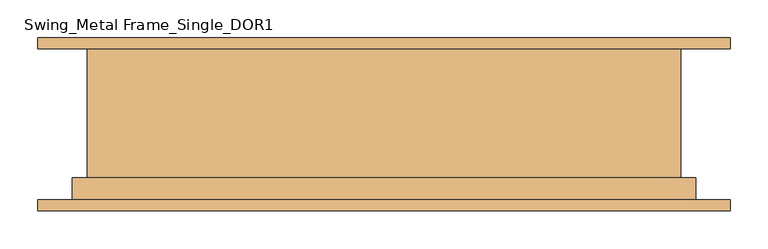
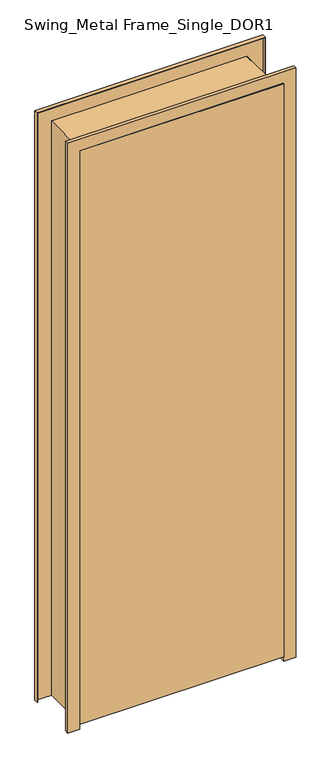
"""IFC4 building model written with IfcOpenShell, lengths in millimetres: door geometry, Swing_Metal Frame_Single_DOR1 : 2040h x 820 (2110x920 STUD)."""

from ifc_helpers import new_model, si_unit, frame, origin, place, context, project, spatial, polyline, outline, extrude, faceted_brep, source, transform, mapped, element, save


def swing_metal_frame_single_dor1_4c0ddaa6(model_context):
    return source(origin(), model_context, "Body", "SolidModel", [
        extrude(outline(polyline([(410.0, -115.0), (-410.0, -115.0), (-410.0, -75.0), (410.0, -75.0), (410.0, -115.0)])), frame((0.0, 0.0, 20.0), z_axis=(0.0, 0.0, 1.0), x_axis=(1.0, 0.0, 0.0)), (0.0, 0.0, 1.0), 2440.0),
        faceted_brep([(-460.0, 115.0, 0.0), (-392.0, 115.0, 0.0), (-392.0, -73.0, 0.0), (-412.0, -73.0, 0.0), (-412.0, -115.0, 0.0), (-460.0, -115.0, 0.0), (-460.0, -100.0, 0.0), (-458.0, -100.0, 0.0), (-458.0, -113.0, 0.0), (-414.0, -113.0, 0.0), (-414.0, -71.0, 0.0), (-394.0, -71.0, 0.0), (-394.0, 113.0, 0.0), (-458.0, 113.0, 0.0), (-458.0, 100.0, 0.0), (-460.0, 100.0, 0.0), (-460.0, 100.0, 2510.0), (-460.0, 115.0, 2510.0), (-458.0, 100.0, 2508.0), (458.0, 100.0, 2508.0), (458.0, 100.0, 0.0), (460.0, 100.0, 0.0), (460.0, 100.0, 2510.0), (-458.0, 113.0, 2508.0), (-394.0, 113.0, 2444.0), (394.0, 113.0, 2444.0), (394.0, 113.0, 0.0), (458.0, 113.0, 0.0), (458.0, 113.0, 2508.0), (-394.0, -71.0, 2444.0), (-414.0, -71.0, 2464.0), (414.0, -71.0, 2464.0), (414.0, -71.0, 0.0), (394.0, -71.0, 0.0), (394.0, -71.0, 2444.0), (-414.0, -113.0, 2464.0), (-458.0, -113.0, 2508.0), (458.0, -113.0, 2508.0), (458.0, -113.0, 0.0), (414.0, -113.0, 0.0), (414.0, -113.0, 2464.0), (-458.0, -100.0, 2508.0), (-460.0, -100.0, 2510.0), (460.0, -100.0, 2510.0), (460.0, -100.0, 0.0), (458.0, -100.0, 0.0), (458.0, -100.0, 2508.0), (-460.0, -115.0, 2510.0), (-412.0, -115.0, 2462.0), (412.0, -115.0, 2462.0), (412.0, -115.0, 0.0), (460.0, -115.0, 0.0), (460.0, -115.0, 2510.0), (-412.0, -73.0, 2462.0), (-392.0, -73.0, 2442.0), (392.0, -73.0, 2442.0), (392.0, -73.0, 0.0), (412.0, -73.0, 0.0), (412.0, -73.0, 2462.0), (-392.0, 115.0, 2442.0), (460.0, 115.0, 2510.0), (460.0, 115.0, 0.0), (392.0, 115.0, 0.0), (392.0, 115.0, 2442.0)], [[[0, 1, 2, 3, 4, 5, 6, 7, 8, 9, 10, 11, 12, 13, 14, 15]], [[15, 16, 17, 0]], [[14, 18, 19, 20, 21, 22, 16, 15]], [[13, 23, 18, 14]], [[12, 24, 25, 26, 27, 28, 23, 13]], [[11, 29, 24, 12]], [[10, 30, 31, 32, 33, 34, 29, 11]], [[9, 35, 30, 10]], [[8, 36, 37, 38, 39, 40, 35, 9]], [[7, 41, 36, 8]], [[6, 42, 43, 44, 45, 46, 41, 7]], [[5, 47, 42, 6]], [[4, 48, 49, 50, 51, 52, 47, 5]], [[3, 53, 48, 4]], [[2, 54, 55, 56, 57, 58, 53, 3]], [[1, 59, 54, 2]], [[0, 17, 60, 61, 62, 63, 59, 1]], [[22, 21, 61, 60]], [[61, 21, 20, 27, 26, 33, 32, 39, 38, 45, 44, 51, 50, 57, 56, 62]], [[28, 27, 20, 19]], [[34, 33, 26, 25]], [[40, 39, 32, 31]], [[46, 45, 38, 37]], [[52, 51, 44, 43]], [[58, 57, 50, 49]], [[63, 62, 56, 55]], [[16, 22, 60, 17]], [[23, 28, 19, 18]], [[29, 34, 25, 24]], [[35, 40, 31, 30]], [[41, 46, 37, 36]], [[47, 52, 43, 42]], [[53, 58, 49, 48]], [[59, 63, 55, 54]]]),
    ])


if __name__ == "__main__":
    model = new_model("IFC4")
    model_context = context("Model", 3, world=origin())
    ifc_project = project(units=[si_unit("LENGTHUNIT", "METRE", prefix="MILLI")], contexts=[model_context])
    site = spatial("IfcSite", under=ifc_project)
    building = spatial("IfcBuilding", under=site)
    placement = place(None, origin())
    swing_metal_frame_single_dor1_shape = swing_metal_frame_single_dor1_4c0ddaa6(model_context)
    element("IfcDoor", 1, ObjectType="Swing_Metal Frame_Single_DOR1 : 2040h x 820 (2110x920 STUD)", at=placement, inside=building, context=model_context, shape_type="MappedRepresentation", body=[
        mapped(swing_metal_frame_single_dor1_shape, transform((0.0, 0.0, 0.0), x_axis=(1.0, 0.0, 0.0), y_axis=(0.0, 1.0, 0.0), z_axis=(0.0, 0.0, 1.0))),
    ])
    save(model, "model.ifc")
